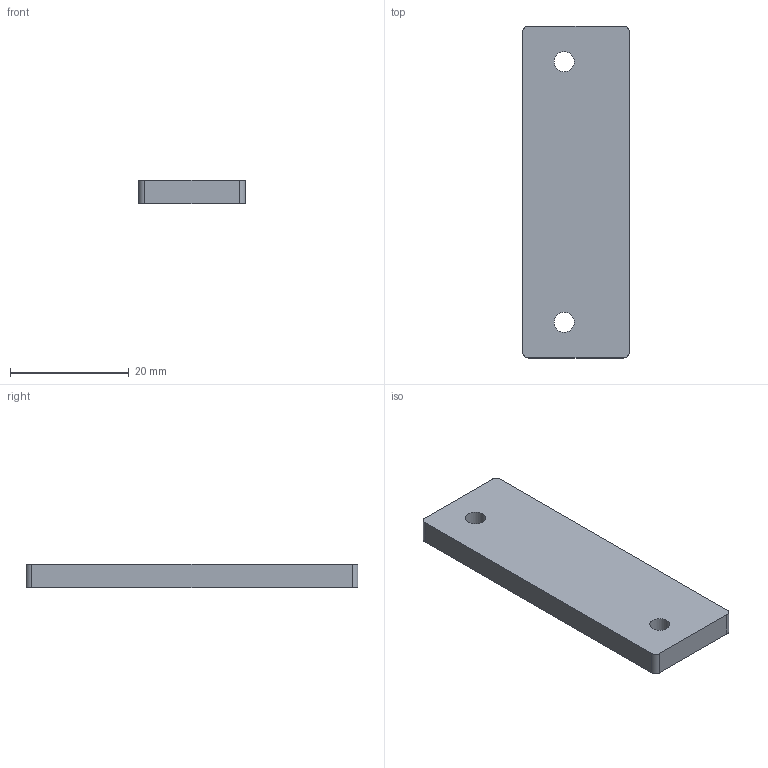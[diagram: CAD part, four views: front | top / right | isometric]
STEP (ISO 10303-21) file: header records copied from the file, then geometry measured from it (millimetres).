
FILE_DESCRIPTION(('Open CASCADE Model'),'2;1');
FILE_NAME('Open CASCADE Shape Model','2026-09-09T13:59:16',('Author'),( 'Open CASCADE'),'Open CASCADE STEP processor 7.9','Open CASCADE 7.9' ,'Unknown');
FILE_SCHEMA(('AUTOMOTIVE_DESIGN { 1 0 10303 214 1 1 1 1 }'));
Length unit declared in the file: millimetre
Products named in the file (1): Open CASCADE STEP translator 7.9 2
Bounding box: 18 x 56 x 4 mm (x, y, z)
Volume: 3955.9 mm3; surface area: 2648.6 mm2
Topology: 1 solids, 1 shells, 12 faces, 30 edges, 20 vertices
Faces by surface type: plane 6, cylinder 6
Full cylindrical faces by diameter (mm): 3.4 x2
Entity records: 798 total; most frequent: CARTESIAN_POINT 171, DIRECTION 120, LINE 66, VECTOR 66, ORIENTED_EDGE 60, PCURVE 60, DEFINITIONAL_REPRESENTATION 60, EDGE_CURVE 30
